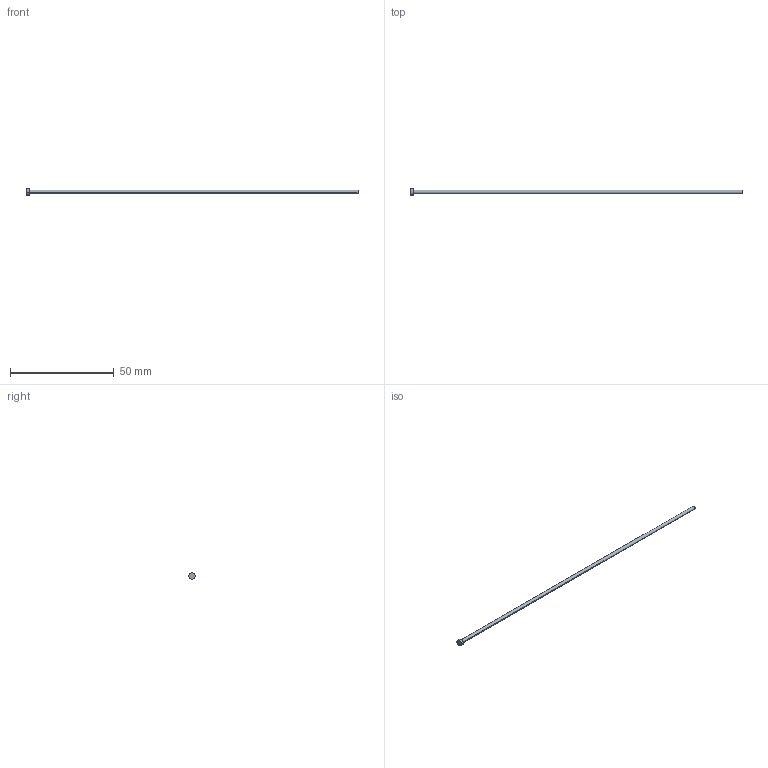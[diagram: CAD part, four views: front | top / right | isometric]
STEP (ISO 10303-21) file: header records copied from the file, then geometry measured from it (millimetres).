
FILE_DESCRIPTION (( 'STEP AP214' ), '1' );
FILE_NAME ('A-1,7x160.STEP', '2020-05-28T16:39:47', ( 'August' ), ( '' ), 'SwSTEP 2.0', 'SolidWorks 2018', '' );
FILE_SCHEMA (( 'AUTOMOTIVE_DESIGN' ));
Length unit declared in the file: millimetre
Products named in the file (1): A-1,7x160
Bounding box: 160 x 3 x 3 mm (x, y, z)
Volume: 370.4 mm3; surface area: 874.3 mm2
Topology: 1 solids, 1 shells, 9 faces, 16 edges, 10 vertices
Faces by surface type: cylinder 4, plane 3, torus 2
Entity records: 260 total; most frequent: DIRECTION 48, CARTESIAN_POINT 36, ORIENTED_EDGE 32, AXIS2_PLACEMENT_3D 22, EDGE_CURVE 16, CIRCLE 12, EDGE_LOOP 10, VERTEX_POINT 10
